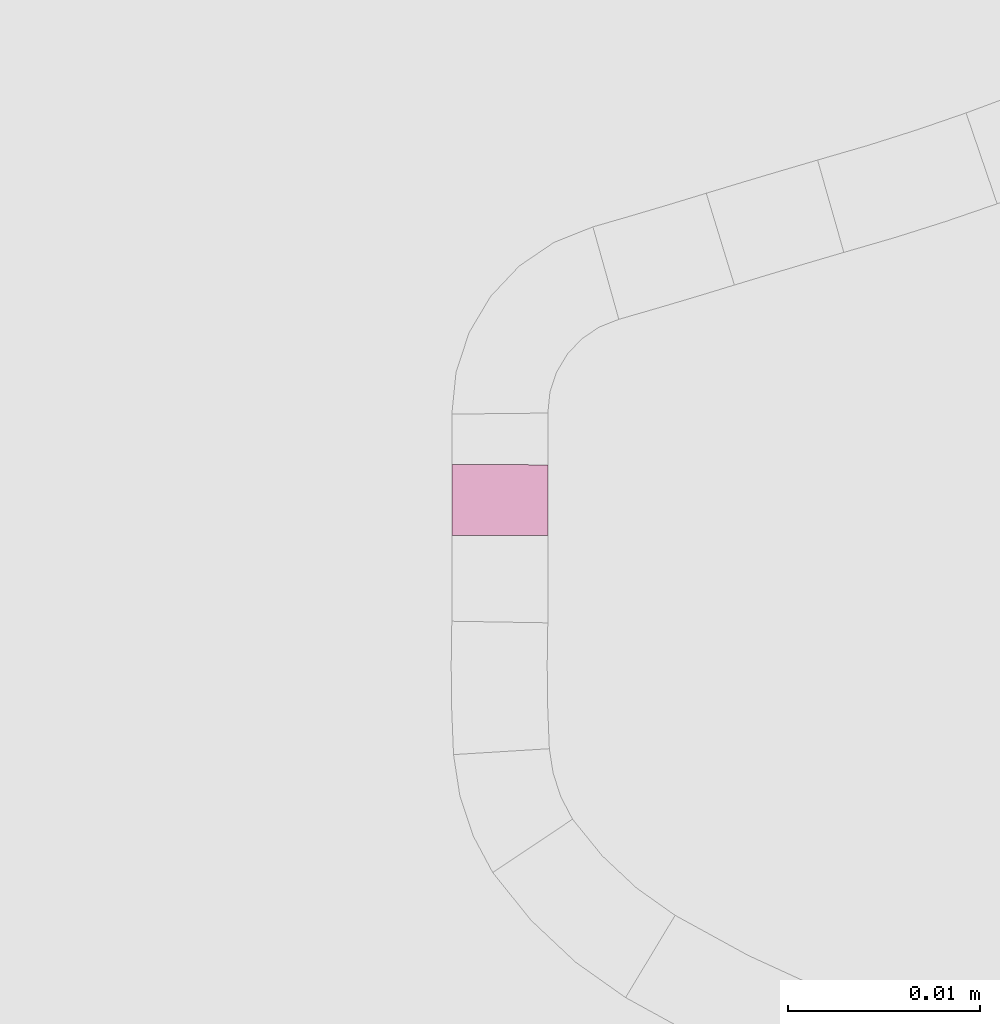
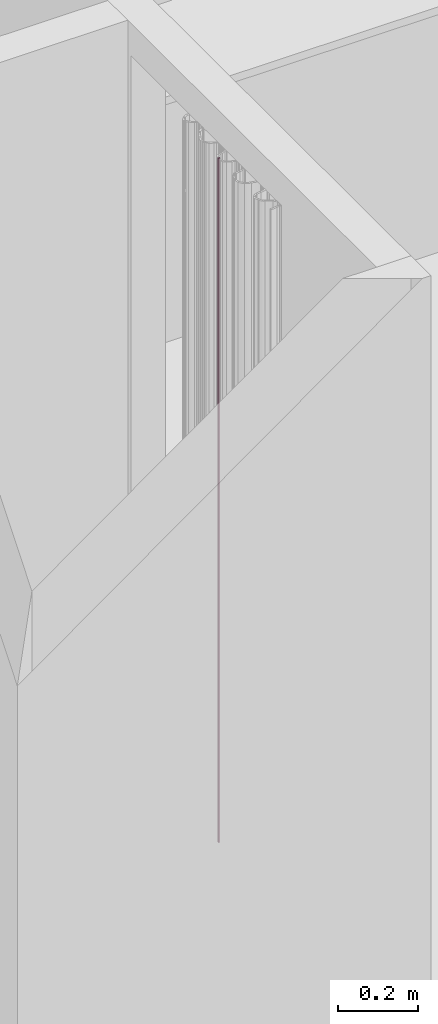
# One storey, part 316 of 418: 1 furnishing.
"""IFC2X3 building model written with IfcOpenShell, lengths in millimetres."""

from ifc_helpers import new_model, entity, si_unit, converted_unit, derived_unit, money_unit, direction, frame, origin_with_axes, place, context, subcontext, project, spatial, polyline, outline, extrude, material, type_object, element, save


model = new_model("IFC2X3")

# Units and contexts
model_context = context("Model", 3, precision=0.01, world=origin_with_axes(), true_north=direction((0.0, 1.0)))
body_context = subcontext(model_context, "Body", "Model", "MODEL_VIEW")
ifc_project = project(units=[si_unit("LENGTHUNIT", "METRE", prefix="MILLI"), si_unit("AREAUNIT", "SQUARE_METRE"), si_unit("VOLUMEUNIT", "CUBIC_METRE"), converted_unit("PLANEANGLEUNIT", "DEGREE", entity("IfcPlaneAngleMeasure", 0.0174532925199), si_unit("PLANEANGLEUNIT", "RADIAN"), dimensions=[0, 0, 0, 0, 0, 0, 0]), si_unit("SOLIDANGLEUNIT", "STERADIAN"), money_unit("EUR"), converted_unit("TIMEUNIT", "Year", entity("IfcTimeMeasure", 31556926.0), si_unit("TIMEUNIT", "SECOND"), dimensions=[0, 0, 1, 0, 0, 0, 0]), si_unit("MASSUNIT", "GRAM", prefix="KILO"), si_unit("THERMODYNAMICTEMPERATUREUNIT", "DEGREE_CELSIUS"), si_unit("LUMINOUSINTENSITYUNIT", "LUMEN"), si_unit("ENERGYUNIT", "JOULE", prefix="MEGA"), derived_unit("THERMALCONDUCTANCEUNIT", [(si_unit("POWERUNIT", "WATT"), 1), (si_unit("LENGTHUNIT", "METRE"), -1), (si_unit("THERMODYNAMICTEMPERATUREUNIT", "KELVIN"), -1)]), derived_unit("SPECIFICHEATCAPACITYUNIT", [(si_unit("ENERGYUNIT", "JOULE"), 1), (si_unit("MASSUNIT", "GRAM", prefix="KILO"), -1), (si_unit("THERMODYNAMICTEMPERATUREUNIT", "KELVIN"), -1)]), derived_unit("MASSDENSITYUNIT", [(si_unit("MASSUNIT", "GRAM", prefix="KILO"), 1), (si_unit("VOLUMEUNIT", "CUBIC_METRE"), -1)])], contexts=[model_context])

# Site, building, storey
site_placement = place(None, origin_with_axes())
site = spatial("IfcSite", under=ifc_project, at=site_placement, Name="Paldiski mnt 245/1, Tallinn, Harjumaa", CompositionType="COMPLEX")
building_placement = place(site_placement, origin_with_axes())
building = spatial("IfcBuilding", under=site, at=building_placement, Name="RKAS Hoone üldnimetus (kasutust iseloomustav) -> IFC Project Manager -> SOLIBRI", CompositionType="ELEMENT")
storey_placement = place(building_placement, origin_with_axes())
storey = spatial("IfcBuildingStorey", under=building, at=storey_placement, Name="Esimene korrus", CompositionType="ELEMENT", Elevation=0.0)

# Furnishing
ifc_material = material(Name="KON-00_GENEERILINE - KONSTRUKTSIOON")
furniture_type = type_object("IfcFurnitureType", Name="KON-00_GENEERILINE - KONSTRUKTSIOON 5", AssemblyPlace="NOTDEFINED")
furnishing_placement = place(storey_placement, frame((-44056.5357591, -2071.19699972, 0.0), z_axis=(0.0, 0.0, 1.0), x_axis=(0.000574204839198, -0.999999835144, 0.0)))
element("IfcFurnishingElement", 1, at=furnishing_placement, inside=storey, type_object=furniture_type, material=ifc_material, Name="SS-11", context=body_context, shape_type="SweptSolid", body=[
    extrude(outline(polyline([(3.48165940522e-10, 0.0), (3.69540194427, 0.0), (3.69524452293, 5.0), (0.0175907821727, 5.0), (3.48165940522e-10, 0.0)])), origin_with_axes(), (0.0, 0.0, 1.0), 2100.0),
])

save(model, "model.ifc")
